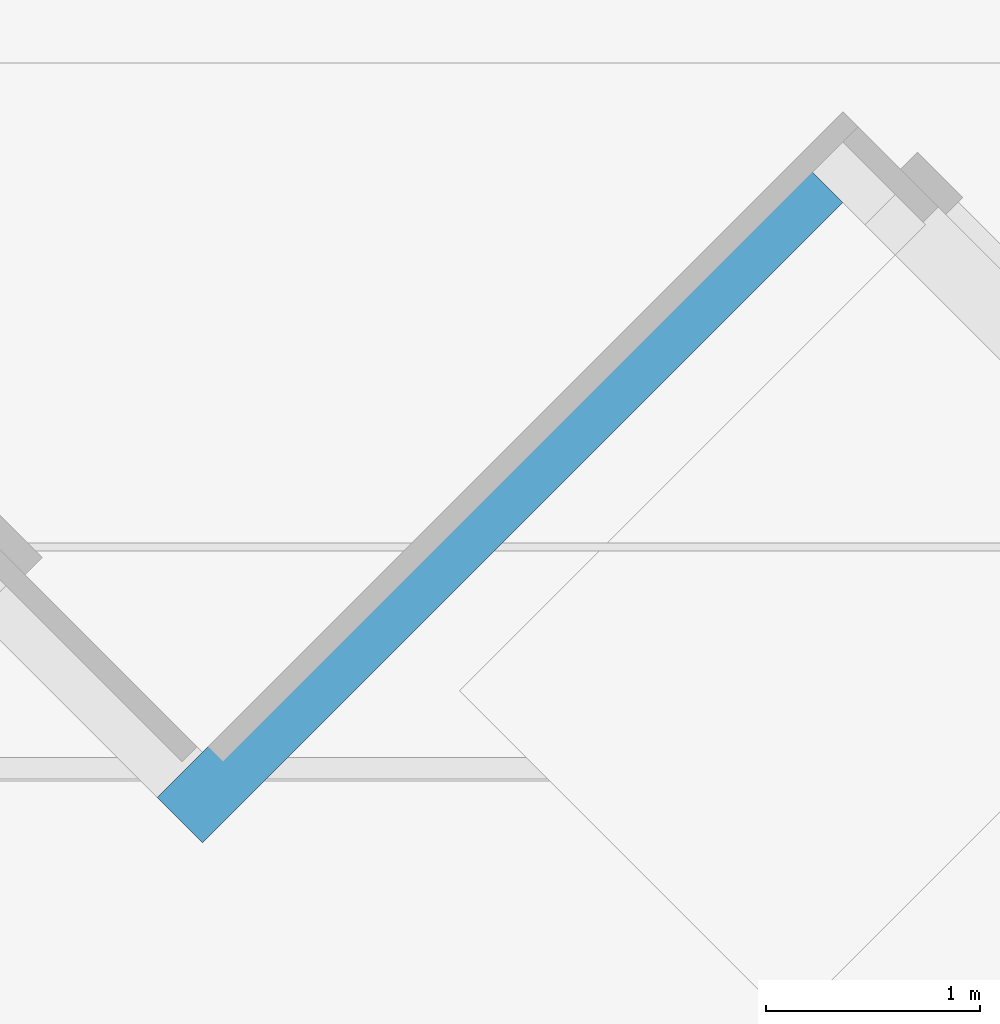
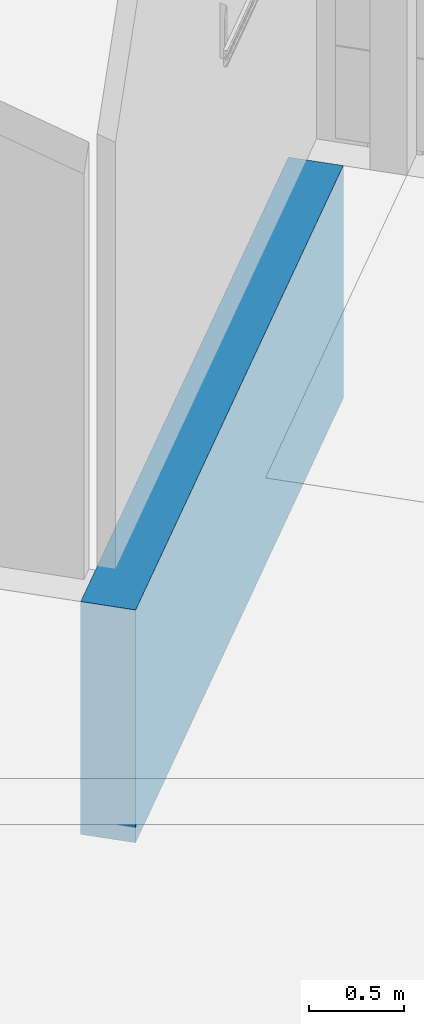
# One storey, part 29 of 64: 1 wall.
"""IFC2X3 building model written with IfcOpenShell, lengths in millimetres."""

from ifc_helpers import new_model, entity, si_unit, converted_unit, derived_unit, direction, frame, frame_2d, origin, place, context, subcontext, project, spatial, rectangle, extrude, material, layer, layer_set, layer_usage, type_object, element, save


model = new_model("IFC2X3")

# Units and contexts
model_context = context("Model", 3, precision=0.01, world=origin(), true_north=direction((4.05803320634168e-15, -1.0)))
body_context = subcontext(model_context, "Body", "Model", "MODEL_VIEW")
ifc_project = project(units=[si_unit("LENGTHUNIT", "METRE", prefix="MILLI"), si_unit("AREAUNIT", "SQUARE_METRE"), si_unit("VOLUMEUNIT", "CUBIC_METRE"), converted_unit("PLANEANGLEUNIT", "DEGREE", entity("IfcRatioMeasure", 0.0174532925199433), si_unit("PLANEANGLEUNIT", "RADIAN"), dimensions=[0, 0, 0, 0, 0, 0, 0]), si_unit("MASSUNIT", "GRAM", prefix="KILO"), derived_unit("MASSDENSITYUNIT", [(si_unit("MASSUNIT", "GRAM", prefix="KILO"), 1), (si_unit("LENGTHUNIT", "METRE"), -3)]), si_unit("TIMEUNIT", "SECOND"), si_unit("FREQUENCYUNIT", "HERTZ"), si_unit("THERMODYNAMICTEMPERATUREUNIT", "DEGREE_CELSIUS"), derived_unit("THERMALTRANSMITTANCEUNIT", [(si_unit("MASSUNIT", "GRAM", prefix="KILO"), 1), (si_unit("THERMODYNAMICTEMPERATUREUNIT", "KELVIN"), -1), (si_unit("TIMEUNIT", "SECOND"), -3)]), derived_unit("VOLUMETRICFLOWRATEUNIT", [(si_unit("LENGTHUNIT", "METRE"), 3), (si_unit("TIMEUNIT", "SECOND"), -1)]), si_unit("ELECTRICCURRENTUNIT", "AMPERE"), si_unit("ELECTRICVOLTAGEUNIT", "VOLT"), si_unit("POWERUNIT", "WATT"), si_unit("FORCEUNIT", "NEWTON", prefix="KILO"), si_unit("ILLUMINANCEUNIT", "LUX"), si_unit("LUMINOUSFLUXUNIT", "LUMEN"), si_unit("LUMINOUSINTENSITYUNIT", "CANDELA"), derived_unit("USERDEFINED", [(si_unit("MASSUNIT", "GRAM", prefix="KILO"), -1), (si_unit("LENGTHUNIT", "METRE"), -2), (si_unit("TIMEUNIT", "SECOND"), 3), (si_unit("LUMINOUSFLUXUNIT", "LUMEN"), 1)]), derived_unit("LINEARVELOCITYUNIT", [(si_unit("LENGTHUNIT", "METRE"), 1), (si_unit("TIMEUNIT", "SECOND"), -1)]), si_unit("PRESSUREUNIT", "PASCAL"), derived_unit("USERDEFINED", [(si_unit("LENGTHUNIT", "METRE"), -2), (si_unit("MASSUNIT", "GRAM", prefix="KILO"), 1), (si_unit("TIMEUNIT", "SECOND"), -2)])], contexts=[model_context])

# Site, building, storey
site_placement = place(None, frame((927466.849349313, 583801.882853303, 0.0), z_axis=(0.0, 0.0, 1.0), x_axis=(-1.0, 0.0, 0.0)))
site = spatial("IfcSite", under=ifc_project, at=site_placement, Name="Surface", CompositionType="ELEMENT")
building_placement = place(site_placement, origin())
building = spatial("IfcBuilding", under=site, at=building_placement, CompositionType="ELEMENT")
storey_placement = place(building_placement, frame((0.0, 0.0, 44170.0)))
storey = spatial("IfcBuildingStorey", under=building, at=storey_placement, Name="Ground FFL", CompositionType="ELEMENT", Elevation=44170.0)

# Wall
ifc_material = material(Name="conc bund")
ifc_layer = layer(ifc_material, 300.0)
ifc_layer_set = layer_set([ifc_layer], Name="Basic Wall:300 bund wall")
ifc_layer_usage = layer_usage(ifc_layer_set, "AXIS2", "POSITIVE", -150.0)
wall_type = type_object("IfcWallType", Name="Basic Wall:300 bund wall", PredefinedType="STANDARD", material=ifc_layer_set)
wall_placement = place(storey_placement, frame((-65979.7542746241, -33356.124220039, -1500.0), z_axis=(0.0, 0.0, 1.0), x_axis=(0.70710678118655, 0.707106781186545, 0.0)))
element("IfcWallStandardCase", 1, at=wall_placement, inside=storey, type_object=wall_type, material=ifc_layer_usage, Name="Basic Wall:300 bund wall", ObjectType="Basic Wall:300 bund wall", context=body_context, shape_type="SweptSolid", body=[
    extrude(rectangle(XDim=4232.26267936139, YDim=299.999999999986, at=frame_2d((2116.13133968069, 4.68958205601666e-13), x_axis=(-1.0, 0.0))), origin(), (0.0, 0.0, 1.0), 1500.00000000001),
])

save(model, "model.ifc")
